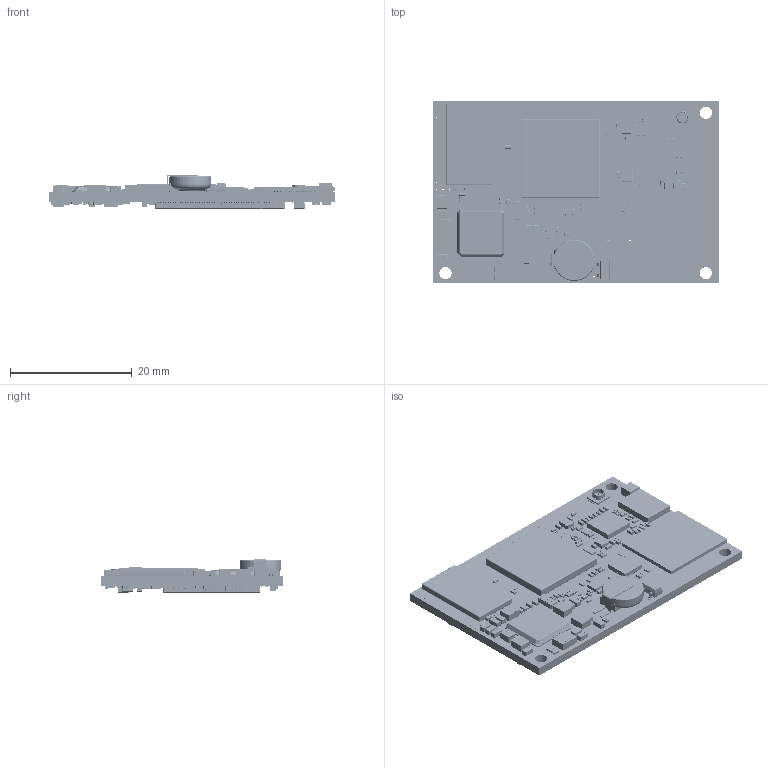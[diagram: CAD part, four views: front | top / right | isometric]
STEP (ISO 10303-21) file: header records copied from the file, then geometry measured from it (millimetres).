
FILE_DESCRIPTION(('STEP AP214'),'1');
FILE_NAME('RZ_G2LC-UL SOM_BoardAndModels.step','2022-09-22T13:07:57',(' '),(' '),'Spatial InterOp 3D','XD3DPlugin XRACreate',' ');
FILE_SCHEMA(('automotive_design'));
Length unit declared in the file: millimetre
Products named in the file (145): Submodel-E:\SolidRun-3D\3D-temp-RZ_G2LC-UL SOM\PCB\Layout\3D\Input_S\0603-capcitor.xtd; 0603-capcitor; Submodel-CA30002_part_simplified_0603; DesignRootModel; Submodel-E:\SolidRun-3D\3D-temp-RZ_G2LC-UL SOM\PCB\Layout\3D\Input_S\0402RES.xtd; 0402RES; Submodel-RE20013_part_simplified_0402_rnd; Submodel-E:\SolidRun-3D\3D-temp-RZ_G2LC-UL SOM\PCB\Layout\3D\Input_S\0402-h-20-Kemet.xtd; 0402-h-20-Kemet; Submodel-CA20132_part_simplified_0402_rnd; Submodel-E:\SolidRun-3D\3D-temp-RZ_G2LC-UL SOM\PCB\Layout\3D\Input_S\C0510X6S0G104M.xtd; C0510X6S0G104M; Submodel-CN00013_part_simplified_CAP-LLL153-0.5x1mm; Submodel-CA20800_part_simplified_0402_rnd; Submodel-E:\SolidRun-3D\3D-temp-RZ_G2LC-UL SOM\PCB\Layout\3D\Input_S\DF40C-80DP.xtd; DF40C-80DP; Submodel-CO00036_part_simplified_DF40C-80DP-0.4V; Submodel-CA30033_part_simplified_0603; Submodel-RE20520_part_simplified_0402_rnd; Submodel-E:\SolidRun-3D\3D-temp-RZ_G2LC-UL SOM\PCB\Layout\3D\Input_S\SOT23-5.xtd; SOT23-5; Submodel-IC00026_part_simplified_SOT23-5_1mmHeight; Submodel-E:\SolidRun-3D\3D-temp-RZ_G2LC-UL SOM\PCB\Layout\3D\Input_S\0201-res.xtd; 0201-res; Submodel-RE10003_part_simplified_0201; Submodel-CA20131_part_simplified_0402_rnd; Submodel-E:\SolidRun-3D\3D-temp-RZ_G2LC-UL SOM\PCB\Layout\3D\Input_S\YC124.xtd; YC124; Submodel-RN00038_part_simplified_RESNET-YC124_SolidRun; Submodel-E:\SolidRun-3D\3D-temp-RZ_G2LC-UL SOM\PCB\Layout\3D\Input_S\0402-res-h10-good.xtd; 0402-res-h10-good; Submodel-RE20500_part_simplified_0402_rnd; Submodel-E:\SolidRun-3D\3D-temp-RZ_G2LC-UL SOM\PCB\Layout\3D\Input_S\IND-DFE252012P.xtd; IND-DFE252012P; Submodel-IN00197_part_simplified_IND-DFE252012P; Submodel-CA20080_part_simplified_0402_rnd; Submodel-E:\SolidRun-3D\3D-temp-RZ_G2LC-UL SOM\PCB\Layout\3D\Input_S\DF40C-70DP.xtd; DF40C-70DP; Submodel-CO00037_part_simplified_DF40C-70DP-0.4V; Submodel-RN00045_part_simplified_RESNET-YC124_SolidRun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
Assembly tree (390 placements, depth 6):
  RZ_G2LC-UL SOM_BoardAndModels
    DesignRootModel
      Submodel-CA30002_part_simplified_0603  x15
        Submodel-E:\SolidRun-3D\3D-temp-RZ_G2LC-UL SOM\PCB\Layout\3D\Input_S\0603-capcitor.xtd
          0603-capcitor
      Submodel-RE20013_part_simplified_0402_rnd  x28
        Submodel-E:\SolidRun-3D\3D-temp-RZ_G2LC-UL SOM\PCB\Layout\3D\Input_S\0402RES.xtd
          0402RES
      Submodel-CA20132_part_simplified_0402_rnd  x4
        Submodel-E:\SolidRun-3D\3D-temp-RZ_G2LC-UL SOM\PCB\Layout\3D\Input_S\0402-h-20-Kemet.xtd
          0402-h-20-Kemet
      Submodel-CN00013_part_simplified_CAP-LLL153-0.5x1mm  x25
        Submodel-E:\SolidRun-3D\3D-temp-RZ_G2LC-UL SOM\PCB\Layout\3D\Input_S\C0510X6S0G104M.xtd
          C0510X6S0G104M
      Submodel-CA20800_part_simplified_0402_rnd  x11
        Submodel-E:\SolidRun-3D\3D-temp-RZ_G2LC-UL SOM\PCB\Layout\3D\Input_S\0402-h-20-Kemet.xtd
          0402-h-20-Kemet
      Submodel-CO00036_part_simplified_DF40C-80DP-0.4V  x2
        Submodel-E:\SolidRun-3D\3D-temp-RZ_G2LC-UL SOM\PCB\Layout\3D\Input_S\DF40C-80DP.xtd
          DF40C-80DP
      Submodel-CA30033_part_simplified_0603  x4
        Submodel-E:\SolidRun-3D\3D-temp-RZ_G2LC-UL SOM\PCB\Layout\3D\Input_S\0603-capcitor.xtd
          0603-capcitor
      Submodel-RE20520_part_simplified_0402_rnd  x2
        Submodel-E:\SolidRun-3D\3D-temp-RZ_G2LC-UL SOM\PCB\Layout\3D\Input_S\0402RES.xtd
          0402RES
      Submodel-IC00026_part_simplified_SOT23-5_1mmHeight
        Submodel-E:\SolidRun-3D\3D-temp-RZ_G2LC-UL SOM\PCB\Layout\3D\Input_S\SOT23-5.xtd
          SOT23-5
      Submodel-RE10003_part_simplified_0201  x23
        Submodel-E:\SolidRun-3D\3D-temp-RZ_G2LC-UL SOM\PCB\Layout\3D\Input_S\0201-res.xtd
          0201-res
      Submodel-CA20131_part_simplified_0402_rnd  x22
        Submodel-E:\SolidRun-3D\3D-temp-RZ_G2LC-UL SOM\PCB\Layout\3D\Input_S\0402-h-20-Kemet.xtd
          0402-h-20-Kemet
      Submodel-RN00038_part_simplified_RESNET-YC124_SolidRun  x4
        Submodel-E:\SolidRun-3D\3D-temp-RZ_G2LC-UL SOM\PCB\Layout\3D\Input_S\YC124.xtd
          YC124
      Submodel-RE20500_part_simplified_0402_rnd
        Submodel-E:\SolidRun-3D\3D-temp-RZ_G2LC-UL SOM\PCB\Layout\3D\Input_S\0402-res-h10-good.xtd
          0402-res-h10-good
      Submodel-IN00197_part_simplified_IND-DFE252012P  x4
        Submodel-E:\SolidRun-3D\3D-temp-RZ_G2LC-UL SOM\PCB\Layout\3D\Input_S\IND-DFE252012P.xtd
          IND-DFE252012P
      Submodel-CA20080_part_simplified_0402_rnd  x2
        Submodel-E:\SolidRun-3D\3D-temp-RZ_G2LC-UL SOM\PCB\Layout\3D\Input_S\0402-h-20-Kemet.xtd
          0402-h-20-Kemet
      Submodel-CO00037_part_simplified_DF40C-70DP-0.4V
        Submodel-E:\SolidRun-3D\3D-temp-RZ_G2LC-UL SOM\PCB\Layout\3D\Input_S\DF40C-70DP.xtd
          DF40C-70DP
      Submodel-RN00045_part_simplified_RESNET-YC124_SolidRun
        Submodel-E:\SolidRun-3D\3D-temp-RZ_G2LC-UL SOM\PCB\Layout\3D\Input_S\YC124.xtd
          YC124
      Submodel-CA20820_part_simplified_0402_rnd
        Submodel-E:\SolidRun-3D\3D-temp-RZ_G2LC-UL SOM\PCB\Layout\3D\Input_S\0402-h-20-Kemet.xtd
          0402-h-20-Kemet
      Submodel-CA20001_part_simplified_0402_rnd  x7
        Submodel-E:\SolidRun-3D\3D-temp-RZ_G2LC-UL SOM\PCB\Layout\3D\Input_S\0402-h-20-Kemet.xtd
          0402-h-20-Kemet
      Submodel-CA20142_part_simplified_0402_rnd
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Bounding box: 47 x 30 x 5.51 mm (x, y, z)
Volume: 2967.6 mm3; surface area: 6783 mm2
Topology: 1419 solids, 1419 shells, 44772 faces, 111082 edges, 65700 vertices
Faces by surface type: plane 24379, cylinder 12025, sphere 4626, bspline 2636, torus 1084, cone 22
Full cylindrical faces by diameter (mm): 0.088 x1, 0.203 x14, 2 x3
Entity records: 301724 total; most frequent: CARTESIAN_POINT 58214, ORIENTED_EDGE 36800, DIRECTION 36351, EDGE_CURVE 18400, LINE 13115, VECTOR 13115, VERTEX_POINT 12070, AXIS2_PLACEMENT_3D 11618
